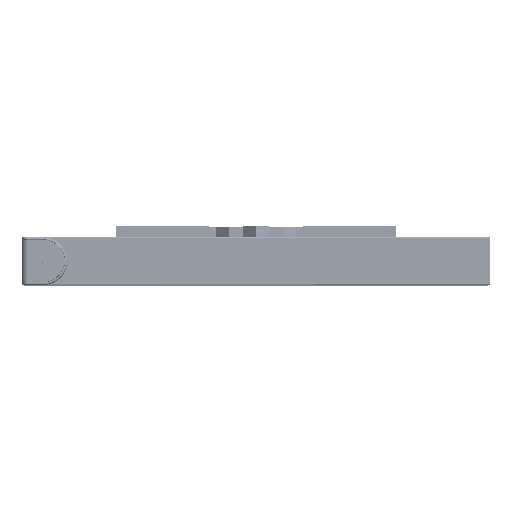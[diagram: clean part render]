
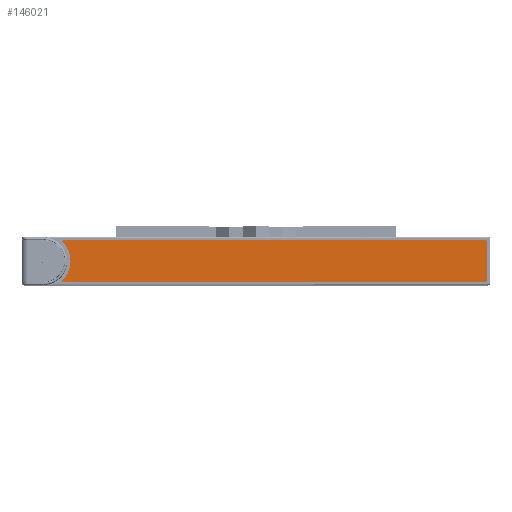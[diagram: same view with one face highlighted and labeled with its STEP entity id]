
A CAD part, top view. The second image highlights one B-rep face of the part: STEP entity #146021.
In plain terms, the highlighted planar face has unit normal (0, 0, 1).
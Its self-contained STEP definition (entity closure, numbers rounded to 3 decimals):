
#145769=DIRECTION('',(1.,0.,0.));
#145770=VECTOR('',#145769,397.37);
#145771=CARTESIAN_POINT('',(-181.37,33.8,6.471));
#145772=LINE('',#145771,#145770);
#145789=DIRECTION('',(-1.,0.,0.));
#145790=VECTOR('',#145789,397.37);
#145791=CARTESIAN_POINT('',(216.,-5.3,6.471));
#145792=LINE('',#145791,#145790);
#145801=DIRECTION('',(0.,-1.,0.));
#145802=VECTOR('',#145801,37.5);
#145803=CARTESIAN_POINT('',(216.8,33.,6.471));
#145804=LINE('',#145803,#145802);
#145813=CARTESIAN_POINT('',(-200.,14.25,6.471));
#145814=DIRECTION('',(0.,0.,-1.));
#145815=DIRECTION('',(0.705,0.709,0.));
#145816=AXIS2_PLACEMENT_3D('',#145813,#145814,#145815);
#145818=CARTESIAN_POINT('',(-181.37,33.,6.471));
#145819=DIRECTION('',(0.,0.,1.));
#145820=DIRECTION('',(0.,1.,0.));
#145821=AXIS2_PLACEMENT_3D('',#145818,#145819,#145820);
#145823=CARTESIAN_POINT('',(216.,33.,6.471));
#145824=DIRECTION('',(0.,0.,1.));
#145825=DIRECTION('',(1.,0.,0.));
#145826=AXIS2_PLACEMENT_3D('',#145823,#145824,#145825);
#145828=CARTESIAN_POINT('',(216.,-4.5,6.471));
#145829=DIRECTION('',(0.,0.,1.));
#145830=DIRECTION('',(0.,-1.,0.));
#145831=AXIS2_PLACEMENT_3D('',#145828,#145829,#145830);
#145833=CARTESIAN_POINT('',(-181.37,-4.5,6.471));
#145834=DIRECTION('',(0.,0.,1.));
#145835=DIRECTION('',(-0.705,0.709,0.));
#145836=AXIS2_PLACEMENT_3D('',#145833,#145834,#145835);
#145843=CARTESIAN_POINT('',(-181.934,32.432,
6.471));
#145845=VERTEX_POINT('',#145843);
#145848=CARTESIAN_POINT('',(-181.37,33.8,6.471));
#145849=VERTEX_POINT('',#145848);
#145854=CARTESIAN_POINT('',(216.,33.8,6.471));
#145855=VERTEX_POINT('',#145854);
#145856=CARTESIAN_POINT('',(-181.934,-3.932,
6.471));
#145857=VERTEX_POINT('',#145856);
#145860=CARTESIAN_POINT('',(216.8,33.,6.471));
#145861=VERTEX_POINT('',#145860);
#145864=CARTESIAN_POINT('',(216.8,-4.5,6.471));
#145865=VERTEX_POINT('',#145864);
#145866=CARTESIAN_POINT('',(-181.37,-5.3,6.471));
#145867=VERTEX_POINT('',#145866);
#145868=CARTESIAN_POINT('',(216.,-5.3,6.471));
#145869=VERTEX_POINT('',#145868);
#146006=CARTESIAN_POINT('',(0.,0.,6.471));
#146007=DIRECTION('',(0.,0.,-1.));
#146008=DIRECTION('',(0.,1.,0.));
#146009=AXIS2_PLACEMENT_3D('',#146006,#146007,#146008);
#146010=PLANE('',#146009);
#146011=ORIENTED_EDGE('',*,*,#145932,.F.);
#146012=ORIENTED_EDGE('',*,*,#145918,.F.);
#146013=ORIENTED_EDGE('',*,*,#145904,.T.);
#146014=ORIENTED_EDGE('',*,*,#146001,.F.);
#146015=ORIENTED_EDGE('',*,*,#145988,.T.);
#146016=ORIENTED_EDGE('',*,*,#145974,.F.);
#146017=ORIENTED_EDGE('',*,*,#145960,.T.);
#146018=ORIENTED_EDGE('',*,*,#145946,.F.);
#146019=EDGE_LOOP('',(#146011,#146012,#146013,#146014,#146015,#146016,#146017,
#146018));
#146020=FACE_OUTER_BOUND('',#146019,.F.);
#146021=ADVANCED_FACE('',(#146020),#146010,.F.);
#145817=CIRCLE('',#145816,25.631);
#145822=CIRCLE('',#145821,0.8);
#145827=CIRCLE('',#145826,0.8);
#145832=CIRCLE('',#145831,0.8);
#145837=CIRCLE('',#145836,0.8);
#145904=EDGE_CURVE('',#145849,#145855,#145772,.T.);
#145918=EDGE_CURVE('',#145849,#145845,#145822,.T.);
#145932=EDGE_CURVE('',#145845,#145857,#145817,.T.);
#145946=EDGE_CURVE('',#145857,#145867,#145837,.T.);
#145960=EDGE_CURVE('',#145869,#145867,#145792,.T.);
#145974=EDGE_CURVE('',#145869,#145865,#145832,.T.);
#145988=EDGE_CURVE('',#145861,#145865,#145804,.T.);
#146001=EDGE_CURVE('',#145861,#145855,#145827,.T.);
